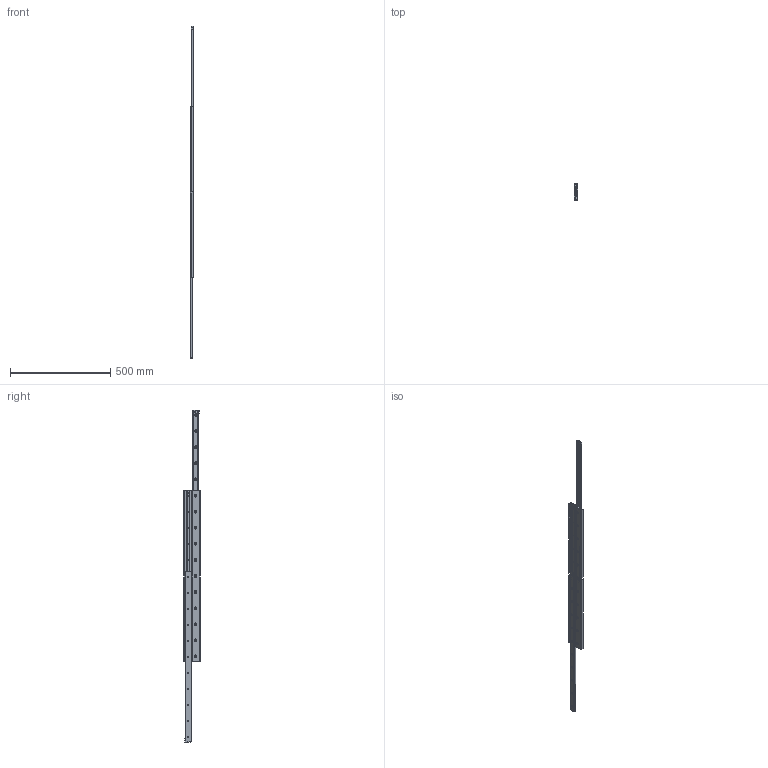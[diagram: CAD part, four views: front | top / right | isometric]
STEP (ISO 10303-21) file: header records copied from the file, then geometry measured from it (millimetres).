
FILE_DESCRIPTION (( 'STEP AP203' ), '1' );
FILE_NAME ('L1984.28D-0850.step', '2018-07-03T12:15:10', ( '' ), ( '' ), 'SwSTEP 2.0', 'SolidWorks 2017', '' );
FILE_SCHEMA (( 'CONFIG_CONTROL_DESIGN' ));
Length unit declared in the file: millimetre
Products named in the file (5): Part3_L1984.28D-0850; Part1_L1984.28D-0850; L1984.28D-0850; Part0_L1984.28D-0850; Part2_L1984.28D-0850
Assembly tree (7 placements, depth 2):
  L1984.28D-0850
    Part0_L1984.28D-0850
    Part2_L1984.28D-0850  x2
    Part1_L1984.28D-0850  x2
    Part3_L1984.28D-0850  x2
Bounding box: 17 x 84 x 1656 mm (x, y, z)
Volume: 729382.4 mm3; surface area: 501567.6 mm2
Topology: 7 solids, 7 shells, 602 faces, 1534 edges, 1020 vertices
Faces by surface type: plane 400, cylinder 114, cone 88
Entity records: 13586 total; most frequent: CARTESIAN_POINT 2255, DIRECTION 2231, ORIENTED_EDGE 2178, EDGE_CURVE 1089, VECTOR 831, LINE 831, VERTEX_POINT 724, AXIS2_PLACEMENT_3D 700
